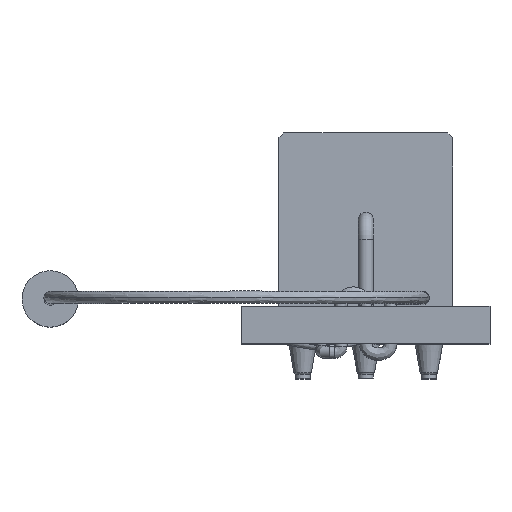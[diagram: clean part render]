
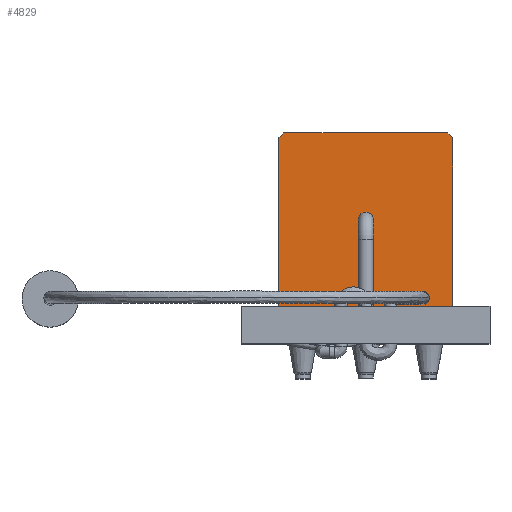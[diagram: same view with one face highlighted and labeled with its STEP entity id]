
A CAD part, top view. The second image highlights one B-rep face of the part: STEP entity #4829.
In plain terms, the highlighted planar face has unit normal (0, 0, 1).
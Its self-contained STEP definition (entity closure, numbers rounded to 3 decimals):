
#4174=CARTESIAN_POINT('',(8.5,1.5,-8.5));
#4175=VERTEX_POINT('',#4174);
#4182=CARTESIAN_POINT('',(1.5,1.5,-8.5));
#4183=VERTEX_POINT('',#4182);
#4184=CARTESIAN_POINT('',(1.5,1.5,-8.5));
#4185=DIRECTION('',(1.0,0.0,0.0));
#4186=VECTOR('',#4185,7.0);
#4187=LINE('',#4184,#4186);
#4188=EDGE_CURVE('',#4183,#4175,#4187,.T.);
#4749=CARTESIAN_POINT('',(8.5,8.3,-8.5));
#4750=VERTEX_POINT('',#4749);
#4757=CARTESIAN_POINT('',(8.5,1.5,-8.5));
#4758=DIRECTION('',(0.0,1.0,0.0));
#4759=VECTOR('',#4758,6.8);
#4760=LINE('',#4757,#4759);
#4761=EDGE_CURVE('',#4175,#4750,#4760,.T.);
#4768=CARTESIAN_POINT('',(1.5,1.5,-8.5));
#4769=DIRECTION('',(0.0,0.0,1.0));
#4770=DIRECTION('',(1.0,0.0,0.0));
#4771=AXIS2_PLACEMENT_3D('',#4768,#4769,#4770);
#4772=PLANE('',#4771);
#4773=CARTESIAN_POINT('',(8.3,8.5,-8.5));
#4774=VERTEX_POINT('',#4773);
#4775=CARTESIAN_POINT('',(8.5,8.3,-8.5));
#4776=DIRECTION('',(-0.707,0.707,0.0));
#4777=VECTOR('',#4776,0.283);
#4778=LINE('',#4775,#4777);
#4779=EDGE_CURVE('',#4750,#4774,#4778,.T.);
#4780=ORIENTED_EDGE('',*,*,#4779,.T.);
#4781=CARTESIAN_POINT('',(1.7,8.5,-8.5));
#4782=VERTEX_POINT('',#4781);
#4783=CARTESIAN_POINT('',(1.7,8.5,-8.5));
#4784=DIRECTION('',(1.0,0.0,0.0));
#4785=VECTOR('',#4784,6.6);
#4786=LINE('',#4783,#4785);
#4787=EDGE_CURVE('',#4782,#4774,#4786,.T.);
#4788=ORIENTED_EDGE('',*,*,#4787,.F.);
#4789=CARTESIAN_POINT('',(1.5,8.3,-8.5));
#4790=VERTEX_POINT('',#4789);
#4791=CARTESIAN_POINT('',(1.7,8.5,-8.5));
#4792=DIRECTION('',(-0.707,-0.707,0.0));
#4793=VECTOR('',#4792,0.283);
#4794=LINE('',#4791,#4793);
#4795=EDGE_CURVE('',#4782,#4790,#4794,.T.);
#4796=ORIENTED_EDGE('',*,*,#4795,.T.);
#4797=CARTESIAN_POINT('',(1.5,1.5,-8.5));
#4798=DIRECTION('',(0.0,1.0,0.0));
#4799=VECTOR('',#4798,6.8);
#4800=LINE('',#4797,#4799);
#4801=EDGE_CURVE('',#4183,#4790,#4800,.T.);
#4802=ORIENTED_EDGE('',*,*,#4801,.F.);
#4803=ORIENTED_EDGE('',*,*,#4188,.T.);
#4804=ORIENTED_EDGE('',*,*,#4761,.T.);
#4805=EDGE_LOOP('',(#4780,#4788,#4796,#4802,#4803,#4804));
#4806=FACE_OUTER_BOUND('',#4805,.T.);
#4807=CARTESIAN_POINT('',(5.0,4.45,-8.5));
#4808=VERTEX_POINT('',#4807);
#4809=CARTESIAN_POINT('',(5.0,4.2,-8.5));
#4810=DIRECTION('',(0.0,0.0,1.0));
#4811=DIRECTION('',(0.0,1.0,0.0));
#4812=AXIS2_PLACEMENT_3D('',#4809,#4810,#4811);
#4813=CIRCLE('',#4812,0.25);
#4814=EDGE_CURVE('',#4808,#4808,#4813,.T.);
#4815=ORIENTED_EDGE('',*,*,#4814,.F.);
#4816=EDGE_LOOP('',(#4815));
#4817=FACE_BOUND('',#4816,.T.);
#4818=CARTESIAN_POINT('',(5.0,5.3,-8.5));
#4819=VERTEX_POINT('',#4818);
#4820=CARTESIAN_POINT('',(5.0,5.0,-8.5));
#4821=DIRECTION('',(0.0,0.0,-1.0));
#4822=DIRECTION('',(0.0,-1.0,0.0));
#4823=AXIS2_PLACEMENT_3D('',#4820,#4821,#4822);
#4824=CIRCLE('',#4823,0.3);
#4825=EDGE_CURVE('',#4819,#4819,#4824,.T.);
#4826=ORIENTED_EDGE('',*,*,#4825,.T.);
#4827=EDGE_LOOP('',(#4826));
#4828=FACE_BOUND('',#4827,.T.);
#4829=ADVANCED_FACE('',(#4806,#4817,#4828),#4772,.T.);
